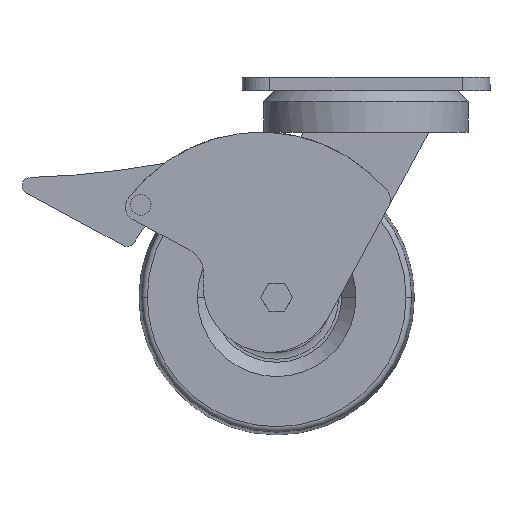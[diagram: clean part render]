
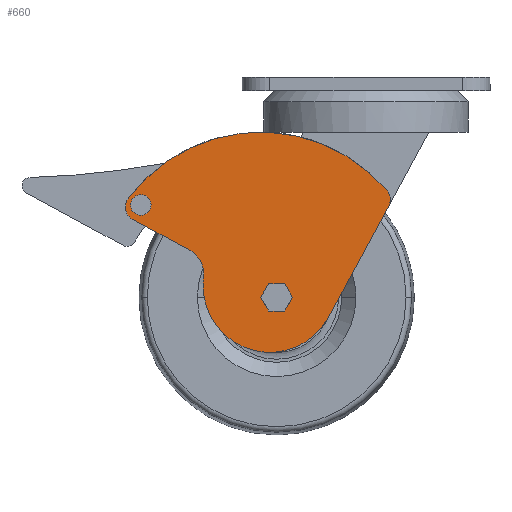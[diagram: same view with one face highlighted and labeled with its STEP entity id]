
A CAD part, front view. The second image highlights one B-rep face of the part: STEP entity #660.
In plain terms, the highlighted planar face has unit normal (0, -1, 0).
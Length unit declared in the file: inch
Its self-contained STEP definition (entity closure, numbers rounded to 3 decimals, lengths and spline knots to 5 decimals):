
#37 = CARTESIAN_POINT ( 'NONE',  ( -2.74748, -1.6775, 1.63712 ) ) ;
#96 = DIRECTION ( 'NONE',  ( 0., -1., 0. ) ) ;
#97 = VERTEX_POINT ( 'NONE', #3609 ) ;
#120 = CARTESIAN_POINT ( 'NONE',  ( -2.46701, -1.6775, 1.67748 ) ) ;
#136 = CARTESIAN_POINT ( 'NONE',  ( -0.28789, -1.6775, 0. ) ) ;
#153 = VERTEX_POINT ( 'NONE', #1651 ) ;
#212 = VERTEX_POINT ( 'NONE', #4499 ) ;
#213 = CIRCLE ( 'NONE', #1869, 0.25 ) ;
#334 = CARTESIAN_POINT ( 'NONE',  ( -2.59201, -1.6775, 1.67748 ) ) ;
#372 = CARTESIAN_POINT ( 'NONE',  ( -2.49748, -1.6775, 1.63712 ) ) ;
#378 = VERTEX_POINT ( 'NONE', #1812 ) ;
#404 = CARTESIAN_POINT ( 'NONE',  ( 0., -1.6775, 0. ) ) ;
#473 = AXIS2_PLACEMENT_3D ( 'NONE', #404, #3340, #5014 ) ;
#601 = LINE ( 'NONE', #4802, #1699 ) ;
#613 = ORIENTED_EDGE ( 'NONE', *, *, #4451, .T. ) ;
#660 = ADVANCED_FACE ( 'NONE', ( #3825, #4118, #2882 ), #2911, .F. ) ;
#687 = CARTESIAN_POINT ( 'NONE',  ( -2.49748, -1.6775, 1.63712 ) ) ;
#689 = CIRCLE ( 'NONE', #4811, 0.125 ) ;
#711 = CARTESIAN_POINT ( 'NONE',  ( -1.32584, -1.6775, 0.35738 ) ) ;
#744 = CIRCLE ( 'NONE', #5046, 0.25 ) ;
#745 = CARTESIAN_POINT ( 'NONE',  ( -2.34201, -1.6775, 1.67748 ) ) ;
#943 = CARTESIAN_POINT ( 'NONE',  ( 0.25, -1.6775, 0. ) ) ;
#1003 = AXIS2_PLACEMENT_3D ( 'NONE', #2088, #4617, #3296 ) ;
#1016 = EDGE_CURVE ( 'NONE', #1608, #3890, #213, .T. ) ;
#1054 = EDGE_CURVE ( 'NONE', #4080, #378, #5369, .T. ) ;
#1084 = LINE ( 'NONE', #4423, #2422 ) ;
#1183 = ORIENTED_EDGE ( 'NONE', *, *, #3420, .T. ) ;
#1211 = AXIS2_PLACEMENT_3D ( 'NONE', #3423, #96, #3807 ) ;
#1293 = CARTESIAN_POINT ( 'NONE',  ( -0.125, -1.6775, 0.20987 ) ) ;
#1319 = EDGE_CURVE ( 'NONE', #97, #212, #601, .T. ) ;
#1391 = CIRCLE ( 'NONE', #5245, 0.5 ) ;
#1482 = ORIENTED_EDGE ( 'NONE', *, *, #4478, .T. ) ;
#1540 = DIRECTION ( 'NONE',  ( 1., 0., 0. ) ) ;
#1594 = DIRECTION ( 'NONE',  ( 0., 1., 0. ) ) ;
#1608 = VERTEX_POINT ( 'NONE', #3899 ) ;
#1651 = CARTESIAN_POINT ( 'NONE',  ( 2.00474, -1.6775, 1.9349 ) ) ;
#1652 = CARTESIAN_POINT ( 'NONE',  ( -1.58397, -1.6775, 0.85798 ) ) ;
#1699 = VECTOR ( 'NONE', #1888, 39.37008 ) ;
#1722 = DIRECTION ( 'NONE',  ( 0., 1., 0. ) ) ;
#1745 = ORIENTED_EDGE ( 'NONE', *, *, #4113, .T. ) ;
#1755 = CIRCLE ( 'NONE', #4293, 1.20987 ) ;
#1767 = ORIENTED_EDGE ( 'NONE', *, *, #4381, .T. ) ;
#1812 = CARTESIAN_POINT ( 'NONE',  ( -0.25, -1.6775, 0. ) ) ;
#1813 = DIRECTION ( 'NONE',  ( 0.879, 0., -0.476 ) ) ;
#1839 = DIRECTION ( 'NONE',  ( -1., 0., 0. ) ) ;
#1869 = AXIS2_PLACEMENT_3D ( 'NONE', #372, #5329, #4925 ) ;
#1888 = DIRECTION ( 'NONE',  ( 0.476, 0., 0.879 ) ) ;
#2088 = CARTESIAN_POINT ( 'NONE',  ( -0.125, -1.6775, 0.20987 ) ) ;
#2102 = DIRECTION ( 'NONE',  ( -1., 0., 0. ) ) ;
#2109 = CARTESIAN_POINT ( 'NONE',  ( 0., -1.6775, 0. ) ) ;
#2141 = CIRCLE ( 'NONE', #3809, 0.25 ) ;
#2181 = CARTESIAN_POINT ( 'NONE',  ( -2.61655, -1.6775, 1.4173 ) ) ;
#2229 = EDGE_CURVE ( 'NONE', #4749, #3998, #5286, .T. ) ;
#2250 = EDGE_CURVE ( 'NONE', #3890, #3850, #744, .T. ) ;
#2324 = EDGE_LOOP ( 'NONE', ( #1745, #4464 ) ) ;
#2363 = DIRECTION ( 'NONE',  ( 0., -1., 0. ) ) ;
#2394 = VERTEX_POINT ( 'NONE', #334 ) ;
#2397 = VERTEX_POINT ( 'NONE', #745 ) ;
#2422 = VECTOR ( 'NONE', #1813, 39.37008 ) ;
#2435 = ORIENTED_EDGE ( 'NONE', *, *, #1319, .T. ) ;
#2441 = CARTESIAN_POINT ( 'NONE',  ( -1.33487, -1.6775, 0.20987 ) ) ;
#2540 = DIRECTION ( 'NONE',  ( 0., -1., 0. ) ) ;
#2596 = EDGE_CURVE ( 'NONE', #3850, #3759, #1084, .T. ) ;
#2674 = DIRECTION ( 'NONE',  ( 0., 1., 0. ) ) ;
#2679 = EDGE_CURVE ( 'NONE', #2394, #2397, #3835, .T. ) ;
#2766 = EDGE_LOOP ( 'NONE', ( #4001, #3810 ) ) ;
#2864 = EDGE_LOOP ( 'NONE', ( #2435, #613, #1183, #4366, #5202, #4214, #1767, #3978, #1482 ) ) ;
#2882 = FACE_OUTER_BOUND ( 'NONE', #2864, .T. ) ;
#2911 = PLANE ( 'NONE',  #1003 ) ;
#2951 = AXIS2_PLACEMENT_3D ( 'NONE', #3187, #2674, #4856 ) ;
#2985 = CIRCLE ( 'NONE', #1211, 0.25 ) ;
#3082 = DIRECTION ( 'NONE',  ( 0., 1., 0. ) ) ;
#3122 = AXIS2_PLACEMENT_3D ( 'NONE', #3550, #3963, #4790 ) ;
#3187 = CARTESIAN_POINT ( 'NONE',  ( -2.46701, -1.6775, 1.67748 ) ) ;
#3296 = DIRECTION ( 'NONE',  ( -1., 0., 0. ) ) ;
#3340 = DIRECTION ( 'NONE',  ( 0., 1., 0. ) ) ;
#3420 = EDGE_CURVE ( 'NONE', #153, #1608, #4928, .T. ) ;
#3423 = CARTESIAN_POINT ( 'NONE',  ( 1.81369, -1.6775, 1.77366 ) ) ;
#3445 = AXIS2_PLACEMENT_3D ( 'NONE', #136, #3483, #3506 ) ;
#3483 = DIRECTION ( 'NONE',  ( 0., -1., 0. ) ) ;
#3506 = DIRECTION ( 'NONE',  ( 1., 0., 0. ) ) ;
#3550 = CARTESIAN_POINT ( 'NONE',  ( -0.125, -1.6775, 0.20987 ) ) ;
#3609 = CARTESIAN_POINT ( 'NONE',  ( 0.93883, -1.6775, -0.36637 ) ) ;
#3642 = CARTESIAN_POINT ( 'NONE',  ( -1.82211, -1.6775, 0.41834 ) ) ;
#3759 = VERTEX_POINT ( 'NONE', #1652 ) ;
#3807 = DIRECTION ( 'NONE',  ( -1., 0., 0. ) ) ;
#3809 = AXIS2_PLACEMENT_3D ( 'NONE', #2109, #1722, #3817 ) ;
#3810 = ORIENTED_EDGE ( 'NONE', *, *, #5085, .T. ) ;
#3817 = DIRECTION ( 'NONE',  ( -1., 0., 0. ) ) ;
#3825 = FACE_BOUND ( 'NONE', #2324, .T. ) ;
#3835 = CIRCLE ( 'NONE', #2951, 0.125 ) ;
#3850 = VERTEX_POINT ( 'NONE', #2181 ) ;
#3890 = VERTEX_POINT ( 'NONE', #37 ) ;
#3899 = CARTESIAN_POINT ( 'NONE',  ( -2.69836, -1.6775, 1.78595 ) ) ;
#3963 = DIRECTION ( 'NONE',  ( 0., -1., 0. ) ) ;
#3978 = ORIENTED_EDGE ( 'NONE', *, *, #2229, .T. ) ;
#3998 = VERTEX_POINT ( 'NONE', #2441 ) ;
#4001 = ORIENTED_EDGE ( 'NONE', *, *, #2679, .T. ) ;
#4043 = DIRECTION ( 'NONE',  ( -1., 0., 0. ) ) ;
#4080 = VERTEX_POINT ( 'NONE', #943 ) ;
#4113 = EDGE_CURVE ( 'NONE', #378, #4080, #2141, .T. ) ;
#4118 = FACE_BOUND ( 'NONE', #2766, .T. ) ;
#4214 = ORIENTED_EDGE ( 'NONE', *, *, #2596, .T. ) ;
#4293 = AXIS2_PLACEMENT_3D ( 'NONE', #1293, #2540, #2102 ) ;
#4366 = ORIENTED_EDGE ( 'NONE', *, *, #1016, .T. ) ;
#4381 = EDGE_CURVE ( 'NONE', #3759, #4749, #1391, .T. ) ;
#4423 = CARTESIAN_POINT ( 'NONE',  ( -1.58397, -1.6775, 0.85798 ) ) ;
#4451 = EDGE_CURVE ( 'NONE', #212, #153, #2985, .T. ) ;
#4464 = ORIENTED_EDGE ( 'NONE', *, *, #1054, .T. ) ;
#4478 = EDGE_CURVE ( 'NONE', #3998, #97, #1755, .T. ) ;
#4499 = CARTESIAN_POINT ( 'NONE',  ( 2.03352, -1.6775, 1.65459 ) ) ;
#4617 = DIRECTION ( 'NONE',  ( 0., 1., 0. ) ) ;
#4749 = VERTEX_POINT ( 'NONE', #711 ) ;
#4790 = DIRECTION ( 'NONE',  ( -1., 0., 0. ) ) ;
#4802 = CARTESIAN_POINT ( 'NONE',  ( 0.93883, -1.6775, -0.36637 ) ) ;
#4811 = AXIS2_PLACEMENT_3D ( 'NONE', #120, #3082, #1839 ) ;
#4856 = DIRECTION ( 'NONE',  ( -1., 0., 0. ) ) ;
#4925 = DIRECTION ( 'NONE',  ( -1., 0., 0. ) ) ;
#4928 = CIRCLE ( 'NONE', #3445, 3. ) ;
#5014 = DIRECTION ( 'NONE',  ( -1., 0., 0. ) ) ;
#5046 = AXIS2_PLACEMENT_3D ( 'NONE', #687, #2363, #4043 ) ;
#5085 = EDGE_CURVE ( 'NONE', #2397, #2394, #689, .T. ) ;
#5202 = ORIENTED_EDGE ( 'NONE', *, *, #2250, .T. ) ;
#5245 = AXIS2_PLACEMENT_3D ( 'NONE', #3642, #1594, #1540 ) ;
#5286 = CIRCLE ( 'NONE', #3122, 1.20987 ) ;
#5329 = DIRECTION ( 'NONE',  ( 0., -1., 0. ) ) ;
#5369 = CIRCLE ( 'NONE', #473, 0.25 ) ;
